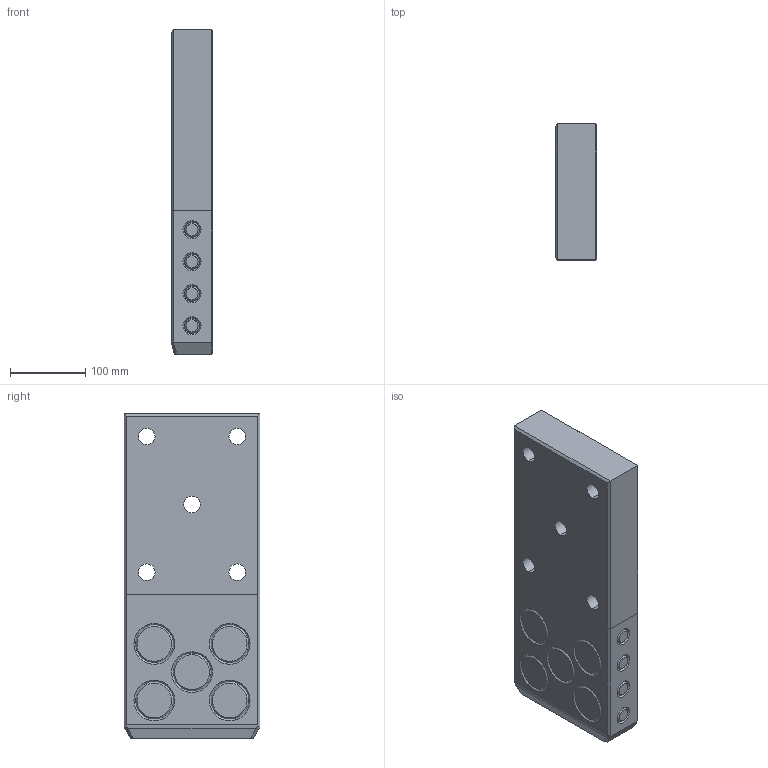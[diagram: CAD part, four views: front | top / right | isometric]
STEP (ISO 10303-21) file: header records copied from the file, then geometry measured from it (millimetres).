
FILE_DESCRIPTION((''),'2;1');
FILE_NAME('','2010-08-30T19:12:40+09:00',('misumi'),(''),'M/STEP i/f 1R2-14','CADmeister v5.1','');
FILE_SCHEMA(('AUTOMOTIVE_DESIGN'));
Length unit declared in the file: millimetre
Products named in the file (1): OGZ180-430
Bounding box: 55 x 180 x 430 mm (x, y, z)
Volume: 4079741.8 mm3; surface area: 239667.3 mm2
Topology: 1 solids, 1 shells, 123 faces, 264 edges, 162 vertices
Faces by surface type: cone 52, plane 44, cylinder 23, bspline 4
Entity records: 4398 total; most frequent: CARTESIAN_POINT 1606, DIRECTION 580, ORIENTED_EDGE 528, EDGE_CURVE 264, AXIS2_PLACEMENT_3D 226, VERTEX_POINT 162, EDGE_LOOP 152, LINE 128
